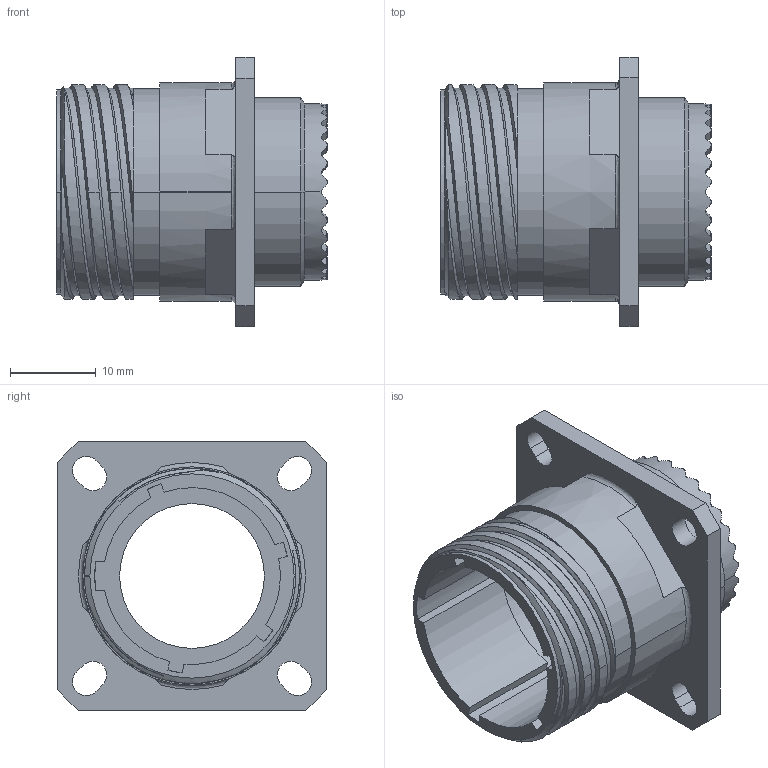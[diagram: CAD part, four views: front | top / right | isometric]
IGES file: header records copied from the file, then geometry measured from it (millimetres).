
Start section:  PTC IGES file: tv00_15_recp-shell.igs
Global section: file name: tv00_15_recp-shell.igs; native system: Creo Parametric by PTC Inc.; preprocessor: 2016260; author: t-nakamura; organization: Unknown; date: 20170622.211128; units: millimetre
Bounding box: 31.5 x 31.3 x 31.3 mm (x, y, z)
Surface area: 6315.6 mm2 (no closed solid volume)
Topology: 0 solids, 0 shells, 238 faces, 1374 edges, 1374 vertices
Faces by surface type: revolution 127, bspline 111
